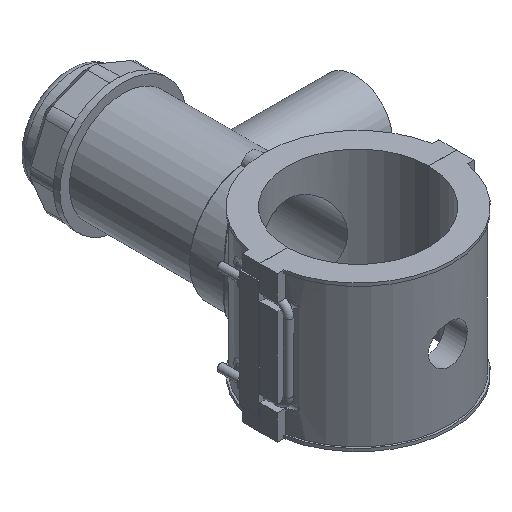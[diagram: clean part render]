
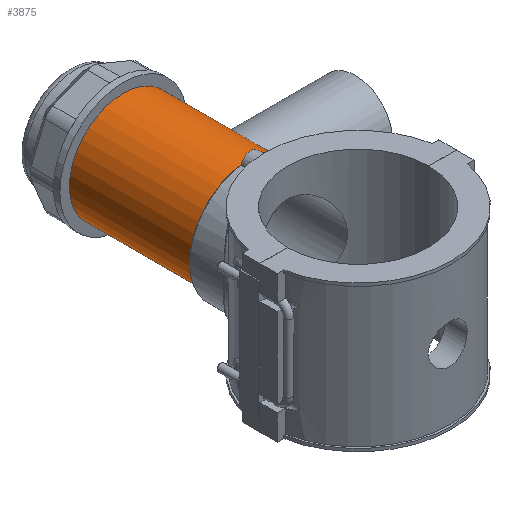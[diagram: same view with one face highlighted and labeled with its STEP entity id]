
A CAD part, isometric view. The second image highlights one B-rep face of the part: STEP entity #3875.
In plain terms, the highlighted cylindrical face has radius 43.643 mm (diameter 87.287 mm), a full revolution.
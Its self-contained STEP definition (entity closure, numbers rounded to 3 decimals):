
#57=FACE_BOUND('',#568,.T.);
#85=B_SPLINE_CURVE_WITH_KNOTS('',3,(#5829,#5830,#5831,#5832,#5833,#5834,
#5835,#5836,#5837,#5838,#5839,#5840,#5841,#5842,#5843,#5844,#5845,#5846),
 .UNSPECIFIED.,.F.,.F.,(4,2,2,2,2,2,2,2,4),(0.,0.596,1.191,
1.787,2.382,2.97,3.558,4.146,
4.734),.UNSPECIFIED.);
#86=B_SPLINE_CURVE_WITH_KNOTS('',3,(#5847,#5848,#5849,#5850,#5851,#5852,
#5853,#5854,#5855,#5856,#5857,#5858,#5859,#5860,#5861,#5862,#5863,#5864,
#5865,#5866,#5867,#5868,#5869,#5870,#5871,#5872,#5873,#5874,#5875,#5876,
#5877,#5878,#5879,#5880,#5881,#5882,#5883,#5884,#5885,#5886,#5887,#5888,
#5889,#5890,#5891,#5892,#5893,#5894,#5895,#5896),.UNSPECIFIED.,.F.,.F.,
(4,2,2,2,2,2,2,2,2,2,2,2,2,2,2,2,2,2,2,2,2,2,2,2,4),(4.734,5.321,
5.909,6.497,7.085,7.68,8.276,
8.872,9.467,10.063,10.658,11.254,
11.849,12.437,13.025,13.613,14.201,
14.788,15.376,15.964,16.552,17.147,
17.743,18.339,18.934),.UNSPECIFIED.);
#347=FACE_OUTER_BOUND('',#567,.T.);
#567=EDGE_LOOP('',(#2858,#2859,#2860,#2861,#2862,#2863));
#568=EDGE_LOOP('',(#2864,#2865));
#798=CIRCLE('',#4156,43.643);
#799=CIRCLE('',#4157,43.643);
#812=CIRCLE('',#4184,43.643);
#813=CIRCLE('',#4185,43.643);
#987=LINE('',#6146,#1326);
#1326=VECTOR('',#4773,43.643);
#1624=VERTEX_POINT('',#5826);
#1625=VERTEX_POINT('',#5828);
#1687=VERTEX_POINT('',#6087);
#1688=VERTEX_POINT('',#6088);
#1702=VERTEX_POINT('',#6142);
#1703=VERTEX_POINT('',#6143);
#2011=EDGE_CURVE('',#1625,#1624,#85,.T.);
#2012=EDGE_CURVE('',#1624,#1625,#86,.T.);
#2107=EDGE_CURVE('',#1687,#1688,#798,.T.);
#2108=EDGE_CURVE('',#1688,#1687,#799,.T.);
#2133=EDGE_CURVE('',#1702,#1703,#812,.T.);
#2134=EDGE_CURVE('',#1703,#1702,#813,.T.);
#2135=EDGE_CURVE('',#1703,#1688,#987,.T.);
#2858=ORIENTED_EDGE('',*,*,#2133,.F.);
#2859=ORIENTED_EDGE('',*,*,#2134,.F.);
#2860=ORIENTED_EDGE('',*,*,#2135,.T.);
#2861=ORIENTED_EDGE('',*,*,#2108,.T.);
#2862=ORIENTED_EDGE('',*,*,#2107,.T.);
#2863=ORIENTED_EDGE('',*,*,#2135,.F.);
#2864=ORIENTED_EDGE('',*,*,#2011,.T.);
#2865=ORIENTED_EDGE('',*,*,#2012,.T.);
#3776=CYLINDRICAL_SURFACE('',#4183,43.643);
#3875=ADVANCED_FACE('',(#347,#57),#3776,.T.);
#4156=AXIS2_PLACEMENT_3D('',#6089,#4701,#4702);
#4157=AXIS2_PLACEMENT_3D('',#6090,#4703,#4704);
#4183=AXIS2_PLACEMENT_3D('',#6141,#4767,#4768);
#4184=AXIS2_PLACEMENT_3D('',#6144,#4769,#4770);
#4185=AXIS2_PLACEMENT_3D('',#6145,#4771,#4772);
#4701=DIRECTION('center_axis',(0.,1.,0.));
#4702=DIRECTION('ref_axis',(1.,0.,0.));
#4703=DIRECTION('center_axis',(0.,1.,0.));
#4704=DIRECTION('ref_axis',(1.,0.,0.));
#4767=DIRECTION('center_axis',(0.,1.,0.));
#4768=DIRECTION('ref_axis',(0.,0.,1.));
#4769=DIRECTION('center_axis',(0.,1.,0.));
#4770=DIRECTION('ref_axis',(1.,0.,0.));
#4771=DIRECTION('center_axis',(0.,1.,0.));
#4772=DIRECTION('ref_axis',(1.,0.,0.));
#4773=DIRECTION('',(0.,-1.,0.));
#5826=CARTESIAN_POINT('',(43.643,92.024,0.));
#5828=CARTESIAN_POINT('',(31.65,122.074,-30.05));
#5829=CARTESIAN_POINT('Ctrl Pts',(31.65,122.074,-30.05));
#5830=CARTESIAN_POINT('Ctrl Pts',(31.65,120.089,-30.05));
#5831=CARTESIAN_POINT('Ctrl Pts',(31.843,118.077,-29.851));
#5832=CARTESIAN_POINT('Ctrl Pts',(32.572,114.14,-29.053));
#5833=CARTESIAN_POINT('Ctrl Pts',(33.106,112.212,-28.455));
#5834=CARTESIAN_POINT('Ctrl Pts',(34.375,108.551,-26.909));
#5835=CARTESIAN_POINT('Ctrl Pts',(35.109,106.812,-25.959));
#5836=CARTESIAN_POINT('Ctrl Pts',(36.618,103.603,-23.782));
#5837=CARTESIAN_POINT('Ctrl Pts',(37.393,102.131,-22.555));
#5838=CARTESIAN_POINT('Ctrl Pts',(38.84,99.536,-19.96));
#5839=CARTESIAN_POINT('Ctrl Pts',(39.568,98.313,-18.498));
#5840=CARTESIAN_POINT('Ctrl Pts',(40.915,96.13,-15.287));
#5841=CARTESIAN_POINT('Ctrl Pts',(41.534,95.172,-13.538));
#5842=CARTESIAN_POINT('Ctrl Pts',(42.56,93.615,-9.852));
#5843=CARTESIAN_POINT('Ctrl Pts',(42.967,93.014,-7.911));
#5844=CARTESIAN_POINT('Ctrl Pts',(43.508,92.219,-3.964));
#5845=CARTESIAN_POINT('Ctrl Pts',(43.643,92.024,-1.959));
#5846=CARTESIAN_POINT('Ctrl Pts',(43.643,92.024,0.));
#5847=CARTESIAN_POINT('Ctrl Pts',(43.643,92.024,0.));
#5848=CARTESIAN_POINT('Ctrl Pts',(43.643,92.024,1.959));
#5849=CARTESIAN_POINT('Ctrl Pts',(43.508,92.219,3.964));
#5850=CARTESIAN_POINT('Ctrl Pts',(42.967,93.014,7.911));
#5851=CARTESIAN_POINT('Ctrl Pts',(42.56,93.615,9.852));
#5852=CARTESIAN_POINT('Ctrl Pts',(41.534,95.172,13.538));
#5853=CARTESIAN_POINT('Ctrl Pts',(40.915,96.13,15.287));
#5854=CARTESIAN_POINT('Ctrl Pts',(39.568,98.313,18.498));
#5855=CARTESIAN_POINT('Ctrl Pts',(38.84,99.536,19.96));
#5856=CARTESIAN_POINT('Ctrl Pts',(37.393,102.131,22.555));
#5857=CARTESIAN_POINT('Ctrl Pts',(36.618,103.603,23.782));
#5858=CARTESIAN_POINT('Ctrl Pts',(35.109,106.812,25.959));
#5859=CARTESIAN_POINT('Ctrl Pts',(34.375,108.551,26.909));
#5860=CARTESIAN_POINT('Ctrl Pts',(33.106,112.212,28.455));
#5861=CARTESIAN_POINT('Ctrl Pts',(32.572,114.14,29.053));
#5862=CARTESIAN_POINT('Ctrl Pts',(31.843,118.077,29.851));
#5863=CARTESIAN_POINT('Ctrl Pts',(31.65,120.089,30.05));
#5864=CARTESIAN_POINT('Ctrl Pts',(31.65,124.059,30.05));
#5865=CARTESIAN_POINT('Ctrl Pts',(31.843,126.071,29.851));
#5866=CARTESIAN_POINT('Ctrl Pts',(32.572,130.008,29.053));
#5867=CARTESIAN_POINT('Ctrl Pts',(33.106,131.936,28.455));
#5868=CARTESIAN_POINT('Ctrl Pts',(34.375,135.597,26.909));
#5869=CARTESIAN_POINT('Ctrl Pts',(35.109,137.336,25.959));
#5870=CARTESIAN_POINT('Ctrl Pts',(36.618,140.545,23.782));
#5871=CARTESIAN_POINT('Ctrl Pts',(37.393,142.017,22.555));
#5872=CARTESIAN_POINT('Ctrl Pts',(38.84,144.612,19.96));
#5873=CARTESIAN_POINT('Ctrl Pts',(39.568,145.835,18.498));
#5874=CARTESIAN_POINT('Ctrl Pts',(40.915,148.018,15.287));
#5875=CARTESIAN_POINT('Ctrl Pts',(41.534,148.976,13.538));
#5876=CARTESIAN_POINT('Ctrl Pts',(42.56,150.533,9.852));
#5877=CARTESIAN_POINT('Ctrl Pts',(42.967,151.134,7.911));
#5878=CARTESIAN_POINT('Ctrl Pts',(43.508,151.929,3.964));
#5879=CARTESIAN_POINT('Ctrl Pts',(43.643,152.124,1.959));
#5880=CARTESIAN_POINT('Ctrl Pts',(43.643,152.124,-1.959));
#5881=CARTESIAN_POINT('Ctrl Pts',(43.508,151.929,-3.964));
#5882=CARTESIAN_POINT('Ctrl Pts',(42.967,151.134,-7.911));
#5883=CARTESIAN_POINT('Ctrl Pts',(42.56,150.533,-9.852));
#5884=CARTESIAN_POINT('Ctrl Pts',(41.534,148.976,-13.538));
#5885=CARTESIAN_POINT('Ctrl Pts',(40.915,148.018,-15.287));
#5886=CARTESIAN_POINT('Ctrl Pts',(39.568,145.835,-18.498));
#5887=CARTESIAN_POINT('Ctrl Pts',(38.84,144.612,-19.96));
#5888=CARTESIAN_POINT('Ctrl Pts',(37.393,142.017,-22.555));
#5889=CARTESIAN_POINT('Ctrl Pts',(36.618,140.545,-23.782));
#5890=CARTESIAN_POINT('Ctrl Pts',(35.109,137.336,-25.959));
#5891=CARTESIAN_POINT('Ctrl Pts',(34.375,135.597,-26.909));
#5892=CARTESIAN_POINT('Ctrl Pts',(33.106,131.936,-28.455));
#5893=CARTESIAN_POINT('Ctrl Pts',(32.572,130.008,-29.053));
#5894=CARTESIAN_POINT('Ctrl Pts',(31.843,126.071,-29.851));
#5895=CARTESIAN_POINT('Ctrl Pts',(31.65,124.059,-30.05));
#5896=CARTESIAN_POINT('Ctrl Pts',(31.65,122.074,-30.05));
#6087=CARTESIAN_POINT('',(0.,88.527,43.643));
#6088=CARTESIAN_POINT('',(0.,88.527,-43.643));
#6089=CARTESIAN_POINT('Origin',(0.,88.527,0.));
#6090=CARTESIAN_POINT('Origin',(0.,88.527,0.));
#6141=CARTESIAN_POINT('Origin',(0.,139.178,0.));
#6142=CARTESIAN_POINT('',(0.,189.829,43.643));
#6143=CARTESIAN_POINT('',(0.,189.829,-43.643));
#6144=CARTESIAN_POINT('Origin',(0.,189.829,0.));
#6145=CARTESIAN_POINT('Origin',(0.,189.829,0.));
#6146=CARTESIAN_POINT('',(0.,139.178,-43.643));
